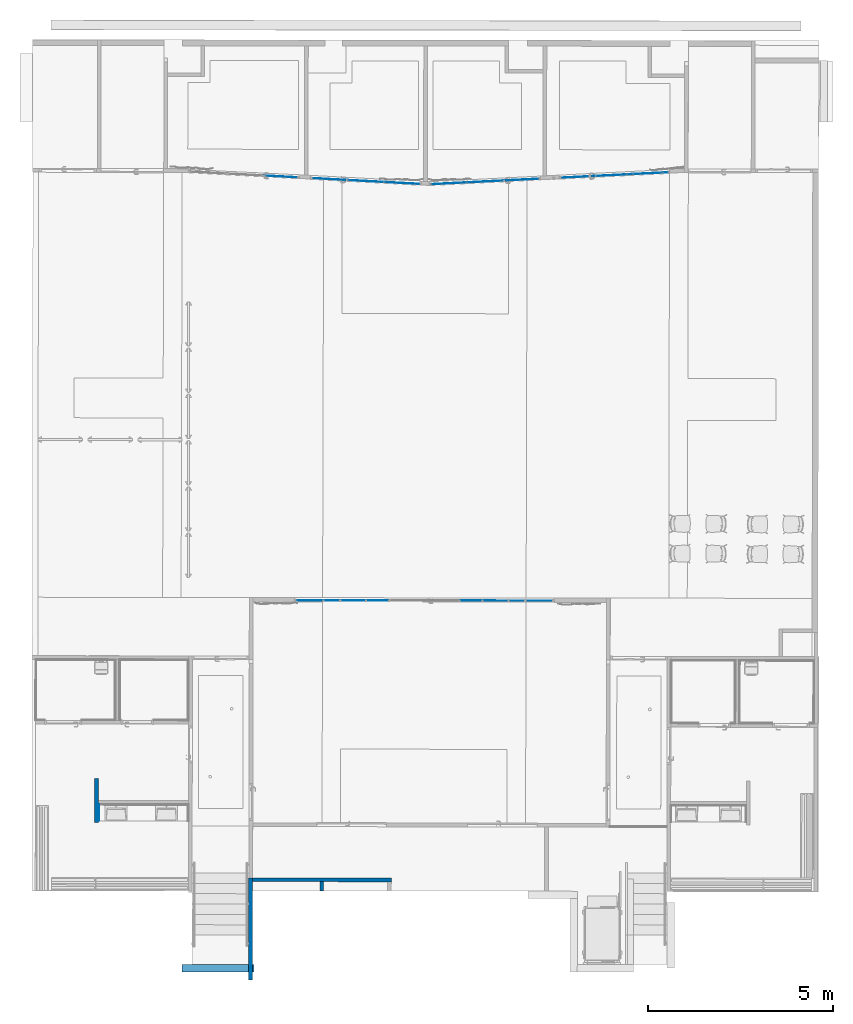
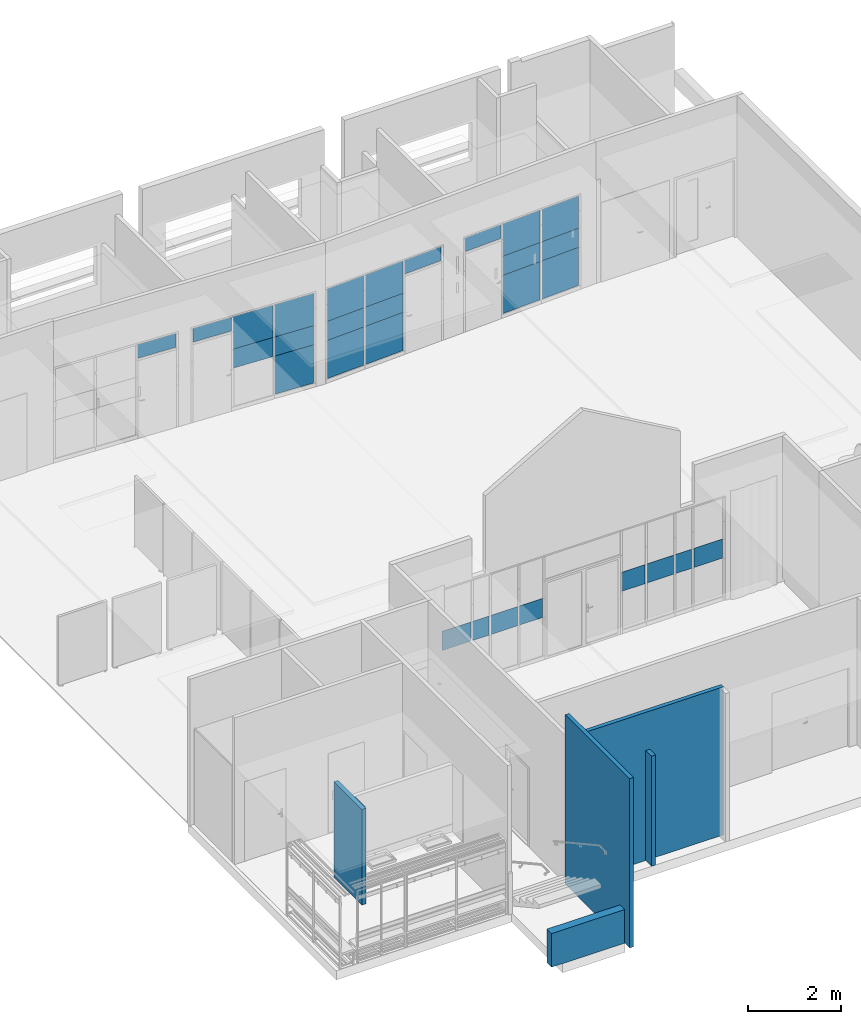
# One storey, part 8 of 43: 29 plates, 6 walls, 5 elements without a shape of their own.
"""IFC2X3 building model written with IfcOpenShell, lengths in metres."""

from ifc_helpers import new_model, entity, si_unit, converted_unit, derived_unit, direction, frame, frame_2d, origin, place, context, subcontext, project, spatial, polyline, rectangle, outline, extrude, clip, bounded_halfspace, source, transform, mapped, material, layer, layer_set, layer_usage, type_object, type_shapes, element, aggregate, save


model = new_model("IFC2X3")

# Units and contexts
model_context = context("Model", 3, precision=1e-05, world=origin(), true_north=direction((6.123233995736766e-17, 1.0)))
body_context = subcontext(model_context, "Body", "Model", "MODEL_VIEW")
ifc_project = project(units=[si_unit("LENGTHUNIT", "METRE"), si_unit("AREAUNIT", "SQUARE_METRE"), converted_unit("PLANEANGLEUNIT", "DEGREE", entity("IfcPlaneAngleMeasure", 0.017453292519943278), si_unit("PLANEANGLEUNIT", "RADIAN"), dimensions=[0, 0, 0, 0, 0, 0, 0]), derived_unit("THERMALTRANSMITTANCEUNIT", [(si_unit("MASSUNIT", "GRAM", prefix="KILO"), 1), (si_unit("THERMODYNAMICTEMPERATUREUNIT", "KELVIN"), -1), (si_unit("TIMEUNIT", "SECOND"), -3)])], contexts=[model_context])

# Site, building, storey
site_placement = place(None, frame((1253.6752467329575, 2072.143113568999, 91.49999999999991), z_axis=(0.0, 0.0, 1.0), x_axis=(0.7237211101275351, 0.6900925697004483, 0.0)))
site = spatial("IfcSite", under=ifc_project, at=site_placement, Name="Surface", CompositionType="ELEMENT")
building_placement = place(site_placement, origin())
building = spatial("IfcBuilding", under=site, at=building_placement, CompositionType="ELEMENT")
storey_placement = place(building_placement, frame((0.0, 0.0, -4.629999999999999)))
storey = spatial("IfcBuildingStorey", under=building, at=storey_placement, Name="rez de rue -1.10m", CompositionType="ELEMENT", Elevation=-4.629999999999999)

# Curtain wall, plates
curtain_wall_type = type_object("IfcCurtainWallType", Name="Mur-rideau:Menuiserie Int", PredefinedType="NOTDEFINED")
curtain_wall_1_placement = place(storey_placement, frame((0.0, 0.0, 4.629999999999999)))
curtain_wall_1 = element("IfcCurtainWall", 1, at=curtain_wall_1_placement, inside=storey, type_object=curtain_wall_type, Name="Mur-rideau:Menuiserie Int", ObjectType="Mur-rideau:Menuiserie Int")
ifc_material_1 = material(Name="Verre, vitrage transparent")
ifc_material_2 = material(Name="Verre")
ifc_layer_1 = layer(ifc_material_2, 0.01)
ifc_layer_set_1 = layer_set([ifc_layer_1], Name="Panneau système:Vitré +vitro")
plate_type_1 = type_object("IfcPlateType", Name="Panneau système:Vitré +vitro", PredefinedType="CURTAIN_PANEL", material=ifc_layer_set_1)
shared_shape_1 = source(origin(), body_context, "Body", "SweptSolid", [
    extrude(rectangle(XDim=0.01, YDim=0.7115193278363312, at=frame_2d((0.0, -2.1649348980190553e-15), x_axis=(1.0, 0.0))), frame((0.0, 0.0, 0.0), z_axis=(0.0, 0.0, 1.0), x_axis=(0.0, 1.0, 0.0)), (0.0, 0.0, 1.0), 0.4999999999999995),
])
type_shapes(plate_type_1, [shared_shape_1])
plate_1_placement = place(curtain_wall_1_placement, frame((175.3603650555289, -2.7019199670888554, -3.5299999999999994), z_axis=(0.0, 0.0, 1.0), x_axis=(-0.7227070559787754, 0.6911544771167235, 0.0)))
plate_1 = element("IfcPlate", 2, at=plate_1_placement, type_object=plate_type_1, material=ifc_material_1, Name="Panneau système:Vitré +vitro", ObjectType="Panneau système:Vitré +vitro", context=body_context, shape_type="MappedRepresentation", body=[
    mapped(shared_shape_1, transform((0.0, 0.0, 0.0), scale=1.0)),
])
plate_type_2 = type_object("IfcPlateType", Name="Panneau système:Vitré +vitro", PredefinedType="CURTAIN_PANEL", material=ifc_layer_set_1)
shared_shape_2 = source(origin(), body_context, "Body", "SweptSolid", [
    extrude(rectangle(XDim=0.01, YDim=0.40004317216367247, at=frame_2d((0.0, -4.565792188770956e-15), x_axis=(1.0, 0.0))), frame((0.0, 0.0, 0.0), z_axis=(0.0, 0.0, 1.0), x_axis=(0.0, 1.0, 0.0)), (0.0, 0.0, 1.0), 0.4999999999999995),
])
type_shapes(plate_type_2, [shared_shape_2])
plate_2_placement = place(curtain_wall_1_placement, frame((174.92256267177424, -2.2832315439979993, -3.5299999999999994), z_axis=(0.0, 0.0, 1.0), x_axis=(-0.7227070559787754, 0.6911544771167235, 0.0)))
plate_2 = element("IfcPlate", 3, at=plate_2_placement, type_object=plate_type_2, material=ifc_material_1, Name="Panneau système:Vitré +vitro", ObjectType="Panneau système:Vitré +vitro", context=body_context, shape_type="MappedRepresentation", body=[
    mapped(shared_shape_2, transform((0.0, 0.0, 0.0), scale=1.0)),
])
plate_type_3 = type_object("IfcPlateType", Name="Panneau système:Vitré +vitro", PredefinedType="CURTAIN_PANEL", material=ifc_layer_set_1)
shared_shape_3 = source(origin(), body_context, "Body", "SweptSolid", [
    extrude(rectangle(XDim=0.01, YDim=0.6534375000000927, at=frame_2d((0.0, -1.7763568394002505e-15), x_axis=(1.0, 0.0))), frame((0.0, 0.0, 0.0), z_axis=(0.0, 0.0, 1.0), x_axis=(0.0, 1.0, 0.0)), (0.0, 0.0, 1.0), 0.4999999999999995),
])
type_shapes(plate_type_3, [shared_shape_3])
plate_3_placement = place(curtain_wall_1_placement, frame((174.50574836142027, -1.8846148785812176, -3.5299999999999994), z_axis=(0.0, 0.0, 1.0), x_axis=(-0.7227070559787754, 0.6911544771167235, 0.0)))
plate_3 = element("IfcPlate", 4, at=plate_3_placement, type_object=plate_type_3, material=ifc_material_1, Name="Panneau système:Vitré +vitro", ObjectType="Panneau système:Vitré +vitro", context=body_context, shape_type="MappedRepresentation", body=[
    mapped(shared_shape_3, transform((0.0, 0.0, 0.0), scale=1.0)),
])
plate_type_4 = type_object("IfcPlateType", Name="Panneau système:Vitré +vitro", PredefinedType="CURTAIN_PANEL", material=ifc_layer_set_1)
shared_shape_4 = source(origin(), body_context, "Body", "SweptSolid", [
    extrude(rectangle(XDim=0.01, YDim=0.5749999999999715, at=frame_2d((0.0, -2.7755575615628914e-17), x_axis=(1.0, 0.0))), frame((0.0, 0.0, 0.0), z_axis=(0.0, 0.0, 1.0), x_axis=(0.0, 1.0, 0.0)), (0.0, 0.0, 1.0), 0.4999999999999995),
])
type_shapes(plate_type_4, [shared_shape_4])
plate_4_placement = place(curtain_wall_1_placement, frame((174.02571278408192, -1.425537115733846, -3.5299999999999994), z_axis=(0.0, 0.0, 1.0), x_axis=(-0.7227070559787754, 0.6911544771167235, 0.0)))
plate_4 = element("IfcPlate", 5, at=plate_4_placement, type_object=plate_type_4, material=ifc_material_1, Name="Panneau système:Vitré +vitro", ObjectType="Panneau système:Vitré +vitro", context=body_context, shape_type="MappedRepresentation", body=[
    mapped(shared_shape_4, transform((0.0, 0.0, 0.0), scale=1.0)),
])
plate_5_placement = place(curtain_wall_1_placement, frame((172.19636054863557, 0.32394765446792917, -3.5299999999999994), z_axis=(0.0, 0.0, 1.0), x_axis=(-0.7227070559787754, 0.6911544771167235, 0.0)))
plate_5 = element("IfcPlate", 6, at=plate_5_placement, type_object=plate_type_4, material=ifc_material_1, Name="Panneau système:Vitré +vitro", ObjectType="Panneau système:Vitré +vitro", context=body_context, shape_type="MappedRepresentation", body=[
    mapped(shared_shape_4, transform((0.0, 0.0, 0.0), scale=1.0)),
])
plate_type_5 = type_object("IfcPlateType", Name="Panneau système:Vitré +vitro", PredefinedType="CURTAIN_PANEL", material=ifc_layer_set_1)
shared_shape_5 = source(origin(), body_context, "Body", "SweptSolid", [
    extrude(rectangle(XDim=0.01, YDim=0.6501545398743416, at=frame_2d((0.0, 3.0253577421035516e-15), x_axis=(1.0, 0.0))), frame((0.0, 0.0, 0.0), z_axis=(0.0, 0.0, 1.0), x_axis=(0.0, 1.0, 0.0)), (0.0, 0.0, 1.0), 0.4999999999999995),
])
type_shapes(plate_type_5, [shared_shape_5])
plate_6_placement = place(curtain_wall_1_placement, frame((171.7175112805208, 0.7818909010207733, -3.5299999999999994), z_axis=(0.0, 0.0, 1.0), x_axis=(-0.7227070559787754, 0.6911544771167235, 0.0)))
plate_6 = element("IfcPlate", 7, at=plate_6_placement, type_object=plate_type_5, material=ifc_material_1, Name="Panneau système:Vitré +vitro", ObjectType="Panneau système:Vitré +vitro", context=body_context, shape_type="MappedRepresentation", body=[
    mapped(shared_shape_5, transform((0.0, 0.0, 0.0), scale=1.0)),
])
plate_type_6 = type_object("IfcPlateType", Name="Panneau système:Vitré +vitro", PredefinedType="CURTAIN_PANEL", material=ifc_layer_set_1)
shared_shape_6 = source(origin(), body_context, "Body", "SweptSolid", [
    extrude(rectangle(XDim=0.01, YDim=0.40000032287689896, at=frame_2d((0.0, -4.066191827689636e-15), x_axis=(1.0, 0.0))), frame((0.0, 0.0, 0.0), z_axis=(0.0, 0.0, 1.0), x_axis=(0.0, 1.0, 0.0)), (0.0, 0.0, 1.0), 0.4999999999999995),
])
type_shapes(plate_type_6, [shared_shape_6])
plate_7_placement = place(curtain_wall_1_placement, frame((171.30189876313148, 1.1793582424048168, -3.5299999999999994), z_axis=(0.0, 0.0, 1.0), x_axis=(-0.7227070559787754, 0.6911544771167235, 0.0)))
plate_7 = element("IfcPlate", 8, at=plate_7_placement, type_object=plate_type_6, material=ifc_material_1, Name="Panneau système:Vitré +vitro", ObjectType="Panneau système:Vitré +vitro", context=body_context, shape_type="MappedRepresentation", body=[
    mapped(shared_shape_6, transform((0.0, 0.0, 0.0), scale=1.0)),
])
plate_type_7 = type_object("IfcPlateType", Name="Panneau système:Vitré +vitro", PredefinedType="CURTAIN_PANEL", material=ifc_layer_set_1)
shared_shape_7 = source(origin(), body_context, "Body", "SweptSolid", [
    extrude(rectangle(XDim=0.01, YDim=0.7101866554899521, at=frame_2d((0.0, -4.191091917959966e-15), x_axis=(1.0, 0.0))), frame((0.0, 0.0, 0.0), z_axis=(0.0, 0.0, 1.0), x_axis=(0.0, 1.0, 0.0)), (0.0, 0.0, 1.0), 0.4999999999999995),
])
type_shapes(plate_type_7, [shared_shape_7])
plate_8_placement = place(curtain_wall_1_placement, frame((170.86459342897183, 1.5975713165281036, -3.5299999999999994), z_axis=(0.0, 0.0, 1.0), x_axis=(-0.7227070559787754, 0.6911544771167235, 0.0)))
plate_8 = element("IfcPlate", 9, at=plate_8_placement, type_object=plate_type_7, material=ifc_material_1, Name="Panneau système:Vitré +vitro", ObjectType="Panneau système:Vitré +vitro", context=body_context, shape_type="MappedRepresentation", body=[
    mapped(shared_shape_7, transform((0.0, 0.0, 0.0), scale=1.0)),
])
aggregate(curtain_wall_1, [plate_1, plate_2, plate_3, plate_4, plate_5, plate_6, plate_7, plate_8])

# Curtain wall, plate
curtain_wall_2_placement = place(storey_placement, frame((0.0, 0.0, 4.629999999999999)))
curtain_wall_2 = element("IfcCurtainWall", 10, at=curtain_wall_2_placement, inside=storey, type_object=curtain_wall_type, Name="Mur-rideau:Menuiserie Int", ObjectType="Mur-rideau:Menuiserie Int")
ifc_layer_2 = layer(ifc_material_2, 0.01)
ifc_layer_set_2 = layer_set([ifc_layer_2], Name="Panneau système:Vitré")
plate_type_8 = type_object("IfcPlateType", Name="Panneau système:Vitré", PredefinedType="CURTAIN_PANEL", material=ifc_layer_set_2)
shared_shape_8 = source(origin(), body_context, "Body", "SweptSolid", [
    extrude(rectangle(XDim=0.01, YDim=0.9499999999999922, at=frame_2d((0.0, -6.161737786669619e-15), x_axis=(1.0, 0.0))), frame((0.0, 0.0, 0.0), z_axis=(0.0, 0.0, 1.0), x_axis=(0.0, 1.0, 0.0)), (0.0, 0.0, 1.0), 1.0),
])
type_shapes(plate_type_8, [shared_shape_8])
plate_9_placement = place(curtain_wall_2_placement, frame((182.13312903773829, 6.5224455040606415, -4.529999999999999), z_axis=(0.0, 0.0, 1.0), x_axis=(0.7578888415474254, -0.6523837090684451, 0.0)))
plate_9 = element("IfcPlate", 11, at=plate_9_placement, type_object=plate_type_8, material=ifc_material_2, Name="Panneau système:Vitré", ObjectType="Panneau système:Vitré", context=body_context, shape_type="MappedRepresentation", body=[
    mapped(shared_shape_8, transform((0.0, 0.0, 0.0), scale=1.0)),
])

curtain_wall_3_placement = place(storey_placement, frame((0.0, 0.0, 4.629999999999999)))
curtain_wall_3 = element("IfcCurtainWall", 12, at=curtain_wall_3_placement, inside=storey, type_object=curtain_wall_type, Name="Mur-rideau:Menuiserie Int", ObjectType="Mur-rideau:Menuiserie Int")
plate_type_9 = type_object("IfcPlateType", Name="Panneau système:Vitré", PredefinedType="CURTAIN_PANEL", material=ifc_layer_set_2)
shared_shape_9 = source(origin(), body_context, "Body", "SweptSolid", [
    extrude(rectangle(XDim=0.01, YDim=0.9250000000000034, at=frame_2d((0.0, -6.161737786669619e-15), x_axis=(1.0, 0.0))), frame((0.0, 0.0, 0.0), z_axis=(0.0, 0.0, 1.0), x_axis=(0.0, 1.0, 0.0)), (0.0, 0.0, 1.0), 0.9999999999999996),
])
type_shapes(plate_type_9, [shared_shape_9])
plate_10_placement = place(curtain_wall_3_placement, frame((180.4766400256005, 8.044964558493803, -4.529999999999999), z_axis=(0.0, 0.0, 1.0), x_axis=(0.6855443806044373, -0.7280308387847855, 0.0)))
plate_10 = element("IfcPlate", 13, at=plate_10_placement, type_object=plate_type_9, material=ifc_material_2, Name="Panneau système:Vitré", ObjectType="Panneau système:Vitré", context=body_context, shape_type="MappedRepresentation", body=[
    mapped(shared_shape_9, transform((0.0, 0.0, 0.0), scale=1.0)),
])

# Plate
plate_11_placement = place(curtain_wall_2_placement, frame((181.38471380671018, 7.166674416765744, -4.529999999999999), z_axis=(0.0, 0.0, 1.0), x_axis=(0.7578888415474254, -0.6523837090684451, 0.0)))
plate_11 = element("IfcPlate", 14, at=plate_11_placement, type_object=plate_type_9, material=ifc_material_2, Name="Panneau système:Vitré", ObjectType="Panneau système:Vitré", context=body_context, shape_type="MappedRepresentation", body=[
    mapped(shared_shape_9, transform((0.0, 0.0, 0.0), scale=1.0)),
])

plate_type_10 = type_object("IfcPlateType", Name="Panneau système:Vitré +vitro", PredefinedType="CURTAIN_PANEL", material=ifc_layer_set_1)
shared_shape_10 = source(origin(), body_context, "Body", "SweptSolid", [
    extrude(rectangle(XDim=0.01, YDim=0.9499999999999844, at=frame_2d((0.0, 3.802513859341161e-15), x_axis=(1.0, 0.0))), frame((0.0, 0.0, 0.0), z_axis=(0.0, 0.0, 1.0), x_axis=(0.0, 1.0, 0.0)), (0.0, 0.0, 1.0), 0.5),
])
type_shapes(plate_type_10, [shared_shape_10])
plate_12_placement = place(curtain_wall_3_placement, frame((179.7996649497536, 8.763895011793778, -3.529999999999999), z_axis=(0.0, 0.0, 1.0), x_axis=(0.6855443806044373, -0.7280308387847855, 0.0)))
plate_12 = element("IfcPlate", 15, at=plate_12_placement, type_object=plate_type_10, material=ifc_material_1, Name="Panneau système:Vitré +vitro", ObjectType="Panneau système:Vitré +vitro", context=body_context, shape_type="MappedRepresentation", body=[
    mapped(shared_shape_10, transform((0.0, 0.0, 0.0), scale=1.0)),
])

plate_13_placement = place(curtain_wall_2_placement, frame((182.13312903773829, 6.5224455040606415, -3.5299999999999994), z_axis=(0.0, 0.0, 1.0), x_axis=(0.7578888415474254, -0.6523837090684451, 0.0)))
plate_13 = element("IfcPlate", 16, at=plate_13_placement, type_object=plate_type_10, material=ifc_material_1, Name="Panneau système:Vitré +vitro", ObjectType="Panneau système:Vitré +vitro", context=body_context, shape_type="MappedRepresentation", body=[
    mapped(shared_shape_10, transform((0.0, 0.0, 0.0), scale=1.0)),
])

plate_type_11 = type_object("IfcPlateType", Name="Panneau système:Vitré +vitro", PredefinedType="CURTAIN_PANEL", material=ifc_layer_set_1)
shared_shape_11 = source(origin(), body_context, "Body", "SweptSolid", [
    extrude(rectangle(XDim=0.01, YDim=0.9250000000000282, at=frame_2d((0.0, 1.8318679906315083e-15), x_axis=(1.0, 0.0))), frame((0.0, 0.0, 0.0), z_axis=(0.0, 0.0, 1.0), x_axis=(0.0, 1.0, 0.0)), (0.0, 0.0, 1.0), 0.5),
])
type_shapes(plate_type_11, [shared_shape_11])
plate_14_placement = place(curtain_wall_3_placement, frame((180.4766400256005, 8.044964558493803, -3.529999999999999), z_axis=(0.0, 0.0, 1.0), x_axis=(0.6855443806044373, -0.7280308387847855, 0.0)))
plate_14 = element("IfcPlate", 17, at=plate_14_placement, type_object=plate_type_11, material=ifc_material_1, Name="Panneau système:Vitré +vitro", ObjectType="Panneau système:Vitré +vitro", context=body_context, shape_type="MappedRepresentation", body=[
    mapped(shared_shape_11, transform((0.0, 0.0, 0.0), scale=1.0)),
])

plate_15_placement = place(curtain_wall_2_placement, frame((181.38471380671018, 7.166674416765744, -3.5299999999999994), z_axis=(0.0, 0.0, 1.0), x_axis=(0.7578888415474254, -0.6523837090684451, 0.0)))
plate_15 = element("IfcPlate", 18, at=plate_15_placement, type_object=plate_type_11, material=ifc_material_1, Name="Panneau système:Vitré +vitro", ObjectType="Panneau système:Vitré +vitro", context=body_context, shape_type="MappedRepresentation", body=[
    mapped(shared_shape_11, transform((0.0, 0.0, 0.0), scale=1.0)),
])

plate_type_12 = type_object("IfcPlateType", Name="Panneau système:Vitré", PredefinedType="CURTAIN_PANEL", material=ifc_layer_set_2)
shared_shape_12 = source(origin(), body_context, "Body", "SweptSolid", [
    extrude(rectangle(XDim=0.8499999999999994, YDim=0.9499999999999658, at=frame_2d((-0.01166666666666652, 6.300515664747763e-15), x_axis=(1.0, 0.0))), frame((0.0, -0.005000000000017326, 0.43666666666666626), z_axis=(0.0, 1.0, 0.0), x_axis=(0.0, 0.0, 1.0)), (0.0, 0.0, 1.0), 0.01),
])
type_shapes(plate_type_12, [shared_shape_12])
plate_16_placement = place(curtain_wall_3_placement, frame((179.7996649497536, 8.763895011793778, -3.029999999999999), z_axis=(0.0, 0.0, 1.0), x_axis=(0.6855443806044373, -0.7280308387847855, 0.0)))
plate_16 = element("IfcPlate", 19, at=plate_16_placement, type_object=plate_type_12, material=ifc_material_2, Name="Panneau système:Vitré", ObjectType="Panneau système:Vitré", context=body_context, shape_type="MappedRepresentation", body=[
    mapped(shared_shape_12, transform((0.0, 0.0, 0.0), scale=1.0)),
])

plate_17_placement = place(curtain_wall_2_placement, frame((182.13312903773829, 6.5224455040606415, -3.0299999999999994), z_axis=(0.0, 0.0, 1.0), x_axis=(0.7578888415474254, -0.6523837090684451, 0.0)))
plate_17 = element("IfcPlate", 20, at=plate_17_placement, type_object=plate_type_12, material=ifc_material_2, Name="Panneau système:Vitré", ObjectType="Panneau système:Vitré", context=body_context, shape_type="MappedRepresentation", body=[
    mapped(shared_shape_12, transform((0.0, 0.0, 0.0), scale=1.0)),
])

plate_type_13 = type_object("IfcPlateType", Name="Panneau système:Vitré", PredefinedType="CURTAIN_PANEL", material=ifc_layer_set_2)
shared_shape_13 = source(origin(), body_context, "Body", "SweptSolid", [
    extrude(rectangle(XDim=0.8499999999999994, YDim=0.9250000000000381, at=frame_2d((-0.01166666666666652, -3.524958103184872e-15), x_axis=(1.0, 0.0))), frame((0.0, -0.0049999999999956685, 0.43666666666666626), z_axis=(0.0, 1.0, 0.0), x_axis=(0.0, 0.0, 1.0)), (0.0, 0.0, 1.0), 0.01),
])
type_shapes(plate_type_13, [shared_shape_13])
plate_18_placement = place(curtain_wall_3_placement, frame((180.4766400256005, 8.044964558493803, -3.029999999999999), z_axis=(0.0, 0.0, 1.0), x_axis=(0.6855443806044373, -0.7280308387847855, 0.0)))
plate_18 = element("IfcPlate", 21, at=plate_18_placement, type_object=plate_type_13, material=ifc_material_2, Name="Panneau système:Vitré", ObjectType="Panneau système:Vitré", context=body_context, shape_type="MappedRepresentation", body=[
    mapped(shared_shape_13, transform((0.0, 0.0, 0.0), scale=1.0)),
])

plate_19_placement = place(curtain_wall_2_placement, frame((181.38471380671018, 7.166674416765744, -3.0299999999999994), z_axis=(0.0, 0.0, 1.0), x_axis=(0.7578888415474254, -0.6523837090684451, 0.0)))
plate_19 = element("IfcPlate", 22, at=plate_19_placement, type_object=plate_type_13, material=ifc_material_2, Name="Panneau système:Vitré", ObjectType="Panneau système:Vitré", context=body_context, shape_type="MappedRepresentation", body=[
    mapped(shared_shape_13, transform((0.0, 0.0, 0.0), scale=1.0)),
])

ifc_material_3 = material(Name="OMD_Porte Stratifié")
ifc_layer_3 = layer(ifc_material_2, 0.01)
ifc_layer_set_3 = layer_set([ifc_layer_3], Name="Panneau système:plein bois")
plate_type_14 = type_object("IfcPlateType", Name="Panneau système:plein bois", PredefinedType="CURTAIN_PANEL", material=ifc_layer_set_3)
shared_shape_14 = source(origin(), body_context, "Body", "SweptSolid", [
    extrude(rectangle(XDim=0.01, YDim=0.9250000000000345, at=frame_2d((0.0, -1.8318679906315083e-15), x_axis=(1.0, 0.0))), frame((0.0, 0.0, 0.0), z_axis=(0.0, 0.0, 1.0), x_axis=(0.0, 1.0, 0.0)), (0.0, 0.0, 1.0), 0.36500000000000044),
])
type_shapes(plate_type_14, [shared_shape_14])
plate_20_placement = place(curtain_wall_3_placement, frame((179.12268987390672, 9.482825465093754, -2.545), z_axis=(0.0, 0.0, 1.0), x_axis=(0.6855443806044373, -0.7280308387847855, 0.0)))
plate_20 = element("IfcPlate", 23, at=plate_20_placement, type_object=plate_type_14, material=ifc_material_3, Name="Panneau système:plein bois", ObjectType="Panneau système:plein bois", context=body_context, shape_type="MappedRepresentation", body=[
    mapped(shared_shape_14, transform((0.0, 0.0, 0.0), scale=1.0)),
])

aggregate(curtain_wall_3, [plate_10, plate_12, plate_14, plate_16, plate_18, plate_20])

plate_21_placement = place(curtain_wall_2_placement, frame((182.88154426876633, 5.878216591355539, -2.545), z_axis=(0.0, 0.0, 1.0), x_axis=(0.7578888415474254, -0.6523837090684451, 0.0)))
plate_21 = element("IfcPlate", 24, at=plate_21_placement, type_object=plate_type_14, material=ifc_material_3, Name="Panneau système:plein bois", ObjectType="Panneau système:plein bois", context=body_context, shape_type="MappedRepresentation", body=[
    mapped(shared_shape_14, transform((0.0, 0.0, 0.0), scale=1.0)),
])

aggregate(curtain_wall_2, [plate_11, plate_9, plate_15, plate_13, plate_19, plate_17, plate_21])

# Curtain wall, plates
curtain_wall_4_placement = place(storey_placement, frame((0.0, 0.0, 4.629999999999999)))
curtain_wall_4 = element("IfcCurtainWall", 25, at=curtain_wall_4_placement, inside=storey, type_object=curtain_wall_type, Name="Mur-rideau:Menuiserie Int", ObjectType="Mur-rideau:Menuiserie Int")
plate_type_15 = type_object("IfcPlateType", Name="Panneau système:Vitré", PredefinedType="CURTAIN_PANEL", material=ifc_layer_set_2)
shared_shape_15 = source(origin(), body_context, "Body", "SweptSolid", [
    extrude(rectangle(XDim=0.01, YDim=0.9499999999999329, at=frame_2d((0.0, 1.2212453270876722e-15), x_axis=(1.0, 0.0))), frame((0.0, 0.0, 0.0), z_axis=(0.0, 0.0, 1.0), x_axis=(0.0, 1.0, 0.0)), (0.0, 0.0, 1.0), 1.0),
])
type_shapes(plate_type_15, [shared_shape_15])
plate_22_placement = place(curtain_wall_4_placement, frame((184.7874646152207, 4.232887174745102, -4.529999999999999), z_axis=(0.0, 0.0, 1.0), x_axis=(0.7578888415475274, -0.6523837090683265, 0.0)))
plate_22 = element("IfcPlate", 26, at=plate_22_placement, type_object=plate_type_15, material=ifc_material_2, Name="Panneau système:Vitré", ObjectType="Panneau système:Vitré", context=body_context, shape_type="MappedRepresentation", body=[
    mapped(shared_shape_15, transform((0.0, 0.0, 0.0), scale=1.0)),
])
plate_type_16 = type_object("IfcPlateType", Name="Panneau système:Vitré", PredefinedType="CURTAIN_PANEL", material=ifc_layer_set_2)
shared_shape_16 = source(origin(), body_context, "Body", "SweptSolid", [
    extrude(rectangle(XDim=0.01, YDim=0.9250000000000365, at=frame_2d((0.0, 2.4702462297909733e-15), x_axis=(1.0, 0.0))), frame((0.0, 0.0, 0.0), z_axis=(0.0, 0.0, 1.0), x_axis=(0.0, 1.0, 0.0)), (0.0, 0.0, 1.0), 1.0),
])
type_shapes(plate_type_16, [shared_shape_16])
plate_23_placement = place(curtain_wall_4_placement, frame((185.53587984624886, 3.588658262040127, -4.529999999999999), z_axis=(0.0, 0.0, 1.0), x_axis=(0.7578888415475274, -0.6523837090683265, 0.0)))
plate_23 = element("IfcPlate", 27, at=plate_23_placement, type_object=plate_type_16, material=ifc_material_2, Name="Panneau système:Vitré", ObjectType="Panneau système:Vitré", context=body_context, shape_type="MappedRepresentation", body=[
    mapped(shared_shape_16, transform((0.0, 0.0, 0.0), scale=1.0)),
])
plate_type_17 = type_object("IfcPlateType", Name="Panneau système:Vitré +vitro", PredefinedType="CURTAIN_PANEL", material=ifc_layer_set_1)
shared_shape_17 = source(origin(), body_context, "Body", "SweptSolid", [
    extrude(rectangle(XDim=0.01, YDim=0.9499999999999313, at=frame_2d((0.0, 1.304512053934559e-15), x_axis=(1.0, 0.0))), frame((0.0, 0.0, 0.0), z_axis=(0.0, 0.0, 1.0), x_axis=(0.0, 1.0, 0.0)), (0.0, 0.0, 1.0), 0.5),
])
type_shapes(plate_type_17, [shared_shape_17])
plate_24_placement = place(curtain_wall_4_placement, frame((184.7874646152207, 4.232887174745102, -3.529999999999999), z_axis=(0.0, 0.0, 1.0), x_axis=(0.7578888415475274, -0.6523837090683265, 0.0)))
plate_24 = element("IfcPlate", 28, at=plate_24_placement, type_object=plate_type_17, material=ifc_material_1, Name="Panneau système:Vitré +vitro", ObjectType="Panneau système:Vitré +vitro", context=body_context, shape_type="MappedRepresentation", body=[
    mapped(shared_shape_17, transform((0.0, 0.0, 0.0), scale=1.0)),
])
plate_type_18 = type_object("IfcPlateType", Name="Panneau système:Vitré +vitro", PredefinedType="CURTAIN_PANEL", material=ifc_layer_set_1)
shared_shape_18 = source(origin(), body_context, "Body", "SweptSolid", [
    extrude(rectangle(XDim=0.01, YDim=0.9250000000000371, at=frame_2d((0.0, -1.9984014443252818e-15), x_axis=(1.0, 0.0))), frame((0.0, 0.0, 0.0), z_axis=(0.0, 0.0, 1.0), x_axis=(0.0, 1.0, 0.0)), (0.0, 0.0, 1.0), 0.5),
])
type_shapes(plate_type_18, [shared_shape_18])
plate_25_placement = place(curtain_wall_4_placement, frame((185.53587984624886, 3.588658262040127, -3.529999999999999), z_axis=(0.0, 0.0, 1.0), x_axis=(0.7578888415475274, -0.6523837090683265, 0.0)))
plate_25 = element("IfcPlate", 29, at=plate_25_placement, type_object=plate_type_18, material=ifc_material_1, Name="Panneau système:Vitré +vitro", ObjectType="Panneau système:Vitré +vitro", context=body_context, shape_type="MappedRepresentation", body=[
    mapped(shared_shape_18, transform((0.0, 0.0, 0.0), scale=1.0)),
])
plate_type_19 = type_object("IfcPlateType", Name="Panneau système:Vitré", PredefinedType="CURTAIN_PANEL", material=ifc_layer_set_2)
shared_shape_19 = source(origin(), body_context, "Body", "SweptSolid", [
    extrude(rectangle(XDim=0.8499999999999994, YDim=0.9250000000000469, at=frame_2d((-0.01166666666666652, -1.4155343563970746e-15), x_axis=(1.0, 0.0))), frame((0.0, -0.004999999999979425, 0.43666666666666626), z_axis=(0.0, 1.0, 0.0), x_axis=(0.0, 0.0, 1.0)), (0.0, 0.0, 1.0), 0.01),
])
type_shapes(plate_type_19, [shared_shape_19])
plate_26_placement = place(curtain_wall_4_placement, frame((185.53587984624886, 3.588658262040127, -3.029999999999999), z_axis=(0.0, 0.0, 1.0), x_axis=(0.7578888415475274, -0.6523837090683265, 0.0)))
plate_26 = element("IfcPlate", 30, at=plate_26_placement, type_object=plate_type_19, material=ifc_material_2, Name="Panneau système:Vitré", ObjectType="Panneau système:Vitré", context=body_context, shape_type="MappedRepresentation", body=[
    mapped(shared_shape_19, transform((0.0, 0.0, 0.0), scale=1.0)),
])
plate_type_20 = type_object("IfcPlateType", Name="Panneau système:Vitré", PredefinedType="CURTAIN_PANEL", material=ifc_layer_set_2)
shared_shape_20 = source(origin(), body_context, "Body", "SweptSolid", [
    extrude(rectangle(XDim=0.8499999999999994, YDim=0.9499999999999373, at=frame_2d((-0.01166666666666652, -6.022959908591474e-15), x_axis=(1.0, 0.0))), frame((0.0, -0.0049999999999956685, 0.43666666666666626), z_axis=(0.0, 1.0, 0.0), x_axis=(0.0, 0.0, 1.0)), (0.0, 0.0, 1.0), 0.01),
])
type_shapes(plate_type_20, [shared_shape_20])
plate_27_placement = place(curtain_wall_4_placement, frame((184.7874646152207, 4.232887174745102, -3.029999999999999), z_axis=(0.0, 0.0, 1.0), x_axis=(0.7578888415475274, -0.6523837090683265, 0.0)))
plate_27 = element("IfcPlate", 31, at=plate_27_placement, type_object=plate_type_20, material=ifc_material_2, Name="Panneau système:Vitré", ObjectType="Panneau système:Vitré", context=body_context, shape_type="MappedRepresentation", body=[
    mapped(shared_shape_20, transform((0.0, 0.0, 0.0), scale=1.0)),
])
plate_type_21 = type_object("IfcPlateType", Name="Panneau système:plein bois", PredefinedType="CURTAIN_PANEL", material=ifc_layer_set_3)
shared_shape_21 = source(origin(), body_context, "Body", "SweptSolid", [
    extrude(rectangle(XDim=0.01, YDim=0.9249999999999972, at=frame_2d((0.0, -2.3592239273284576e-15), x_axis=(1.0, 0.0))), frame((0.0, 0.0, 0.0), z_axis=(0.0, 0.0, 1.0), x_axis=(0.0, 1.0, 0.0)), (0.0, 0.0, 1.0), 0.36500000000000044),
])
type_shapes(plate_type_21, [shared_shape_21])
plate_28_placement = place(curtain_wall_4_placement, frame((184.0390493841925, 4.877116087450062, -2.545), z_axis=(0.0, 0.0, 1.0), x_axis=(0.7578888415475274, -0.6523837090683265, 0.0)))
plate_28 = element("IfcPlate", 32, at=plate_28_placement, type_object=plate_type_21, material=ifc_material_3, Name="Panneau système:plein bois", ObjectType="Panneau système:plein bois", context=body_context, shape_type="MappedRepresentation", body=[
    mapped(shared_shape_21, transform((0.0, 0.0, 0.0), scale=1.0)),
])
aggregate(curtain_wall_4, [plate_22, plate_23, plate_24, plate_25, plate_26, plate_27, plate_28])

# Curtain wall, plate
curtain_wall_5_placement = place(storey_placement, frame((0.0, 0.0, 4.629999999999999)))
curtain_wall_5 = element("IfcCurtainWall", 33, at=curtain_wall_5_placement, inside=storey, type_object=curtain_wall_type, Name="Mur-rideau:Menuiserie Int", ObjectType="Mur-rideau:Menuiserie Int")
plate_29_placement = place(curtain_wall_5_placement, frame((178.2119428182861, 10.4500158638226, -2.545), z_axis=(0.0, 0.0, 1.0), x_axis=(-0.6855443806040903, 0.7280308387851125, 0.0)))
plate_29 = element("IfcPlate", 34, at=plate_29_placement, type_object=plate_type_21, material=ifc_material_3, Name="Panneau système:plein bois", ObjectType="Panneau système:plein bois", context=body_context, shape_type="MappedRepresentation", body=[
    mapped(shared_shape_21, transform((0.0, 0.0, 0.0), scale=1.0)),
])
aggregate(curtain_wall_5, [plate_29])

# Walls
ifc_material_4 = material(Name="OMD_Cloison 100mm CF1h")
ifc_layer_4 = layer(ifc_material_4, 0.1)
ifc_layer_set_4 = layer_set([ifc_layer_4], Name="Mur de base:Cloison 100mm CF1h")
ifc_layer_usage_1 = layer_usage(ifc_layer_set_4, "AXIS2", "POSITIVE", -0.05)
wall_type_1 = type_object("IfcWallType", Name="Mur de base:Cloison 100mm CF1h", PredefinedType="STANDARD", material=ifc_layer_set_4)
wall_1_placement = place(storey_placement, frame((164.5265129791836, -2.8094322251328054, 0.0), z_axis=(0.0, 0.0, 1.0), x_axis=(0.7227070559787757, -0.6911544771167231, 0.0)))
element("IfcWallStandardCase", 35, at=wall_1_placement, inside=storey, type_object=wall_type_1, material=ifc_layer_usage_1, Name="Mur de base:Cloison 100mm CF1h", ObjectType="Mur de base:Cloison 100mm CF1h", context=body_context, shape_type="Clipping", body=[
    clip(extrude(outline(polyline([(3.760119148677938, -0.050000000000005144), (3.7602327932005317, 0.049999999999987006), (0.0, 0.04999999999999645), (0.00014683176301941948, -0.04999999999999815), (1.8309955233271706, -0.04999999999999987), (1.930995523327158, -0.050000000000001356), (3.660119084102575, -0.0500000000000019), (3.760119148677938, -0.050000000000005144)])), origin(), (0.0, 0.0, 1.0), 3.875124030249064), bounded_halfspace(frame((0.00014683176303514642, -0.050000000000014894, 3.875124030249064), z_axis=(0.0, 0.00890106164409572, 0.9999603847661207), x_axis=(-1.0, 0.0, 0.0)), False, frame((0.00014683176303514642, -0.050000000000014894, 3.875124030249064)), polyline([(0.0, 0.0), (3.659972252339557, 0.0), (3.7599723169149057, 0.0), (3.7600859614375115, 0.09999999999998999), (-0.00014683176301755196, 0.10000000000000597), (0.0, 0.0)]))),
])
ifc_layer_usage_2 = layer_usage(ifc_layer_set_4, "AXIS2", "NEGATIVE", 0.05)
wall_2_placement = place(storey_placement, frame((165.67891454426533, -4.325948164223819, 0.0), z_axis=(0.0, 0.0, 1.0), x_axis=(0.6911544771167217, 0.7227070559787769, 0.0)))
element("IfcWallStandardCase", 36, at=wall_2_placement, inside=storey, type_object=wall_type_1, material=ifc_layer_usage_2, Name="Mur de base:Cloison 100mm CF1h", ObjectType="Mur de base:Cloison 100mm CF1h", context=body_context, shape_type="SweptSolid", body=[
    extrude(outline(polyline([(0.2495092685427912, -0.04999999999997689), (0.24950926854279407, 0.05000000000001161), (0.0, 0.0500000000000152), (2.361177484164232e-05, -0.049999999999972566), (0.2495092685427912, -0.04999999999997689)])), origin(), (0.0, 0.0, 1.0), 2.8799999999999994),
])
ifc_material_5 = material(Name="OMD_Cloison 100mm")
ifc_layer_5 = layer(ifc_material_5, 0.1)
ifc_layer_set_5 = layer_set([ifc_layer_5], Name="Mur de base:Cloison 100mm")
ifc_layer_usage_3 = layer_usage(ifc_layer_set_5, "AXIS2", "POSITIVE", -0.05)
wall_type_2 = type_object("IfcWallType", Name="Mur de base:Cloison 100mm", PredefinedType="STANDARD", material=ifc_layer_set_5)
wall_3_placement = place(storey_placement, frame((163.3678527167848, 2.087604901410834, 0.0), z_axis=(0.0, 0.0, 1.0), x_axis=(-0.6913251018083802, -0.722543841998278, 0.0)))
element("IfcWallStandardCase", 37, at=wall_3_placement, inside=storey, type_object=wall_type_2, material=ifc_layer_usage_3, Name="Mur de base:Cloison 100mm", ObjectType="Mur de base:Cloison 100mm", context=body_context, shape_type="SweptSolid", body=[
    extrude(rectangle(XDim=1.2000000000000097, YDim=0.1000000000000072, at=frame_2d((0.6000000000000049, 9.159339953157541e-16), x_axis=(-1.0, 0.0))), origin(), (0.0, 0.0, 1.0), 2.5),
])
ifc_layer_usage_4 = layer_usage(ifc_layer_set_5, "AXIS2", "NEGATIVE", 0.05)
wall_4_placement = place(storey_placement, frame((162.61793858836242, -4.738664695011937, 0.0), z_axis=(0.0, 0.0, 1.0), x_axis=(0.6900925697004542, 0.7237211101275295, 0.0)))
element("IfcWallStandardCase", 38, at=wall_4_placement, inside=storey, type_object=wall_type_2, material=ifc_layer_usage_4, Name="Mur de base:Cloison 100mm", ObjectType="Mur de base:Cloison 100mm", context=body_context, shape_type="SweptSolid", body=[
    extrude(outline(polyline([(2.763319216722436, -0.050000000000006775), (2.7634660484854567, 0.050000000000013), (0.0, 0.0500000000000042), (0.0, -0.05000000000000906), (2.6633191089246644, -0.050000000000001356), (2.763319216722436, -0.050000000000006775)])), origin(), (0.0, 0.0, 1.0), 4.429999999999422),
])
ifc_material_6 = material(Name="OMD_faïence 6.5*20")
ifc_layer_6 = layer(ifc_material_6, 0.02)
ifc_layer_set_6 = layer_set([ifc_layer_6], Name="Mur de base:faïence")
ifc_layer_usage_5 = layer_usage(ifc_layer_set_6, "AXIS2", "NEGATIVE", 0.010000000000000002)
wall_type_3 = type_object("IfcWallType", Name="Mur de base:faïence", PredefinedType="STANDARD", material=ifc_layer_set_6)
wall_5_placement = place(storey_placement, frame((162.6159274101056, 1.214199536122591, 0.7500000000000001), z_axis=(0.0, 0.0, 1.0), x_axis=(0.6911544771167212, 0.7227070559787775, 0.0)))
element("IfcWallStandardCase", 39, at=wall_5_placement, inside=storey, type_object=wall_type_3, material=ifc_layer_usage_5, Name="Mur de base:faïence", ObjectType="Mur de base:faïence", context=body_context, shape_type="SweptSolid", body=[
    extrude(outline(polyline([(0.45124614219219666, -0.01000000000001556), (0.4512666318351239, 0.009999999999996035), (0.0, 0.009999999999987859), (0.0, -0.010000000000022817), (0.4312461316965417, -0.010000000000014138), (0.45124614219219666, -0.01000000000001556)])), origin(), (0.0, 0.0, 1.0), 1.7499999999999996),
])
ifc_material_7 = material(Name="Béton - Béton coulé sur place")
ifc_layer_7 = layer(ifc_material_7, 0.2)
ifc_layer_set_7 = layer_set([ifc_layer_7], Name="Mur de base:BA 20")
ifc_layer_usage_6 = layer_usage(ifc_layer_set_7, "AXIS2", "POSITIVE", -0.1)
wall_type_4 = type_object("IfcWallType", Name="Mur de base:BA 20", PredefinedType="STANDARD", material=ifc_layer_set_7)
wall_6_placement = place(storey_placement, frame((162.90022967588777, -4.575030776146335, 0.0), z_axis=(0.0, 0.0, 1.0), x_axis=(-0.7227070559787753, 0.6911544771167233, 0.0)))
element("IfcWallStandardCase", 40, at=wall_6_placement, inside=storey, type_object=wall_type_4, material=ifc_layer_usage_6, Name="Mur de base:BA 20", ObjectType="Mur de base:BA 20", context=body_context, shape_type="SweptSolid", body=[
    extrude(rectangle(XDim=1.9519115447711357, YDim=0.1999999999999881, at=frame_2d((0.9759557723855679, -2.976785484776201e-15), x_axis=(-1.0, 0.0))), origin(), (0.0, 0.0, 1.0), 0.8799999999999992),
])

save(model, "model.ifc")
